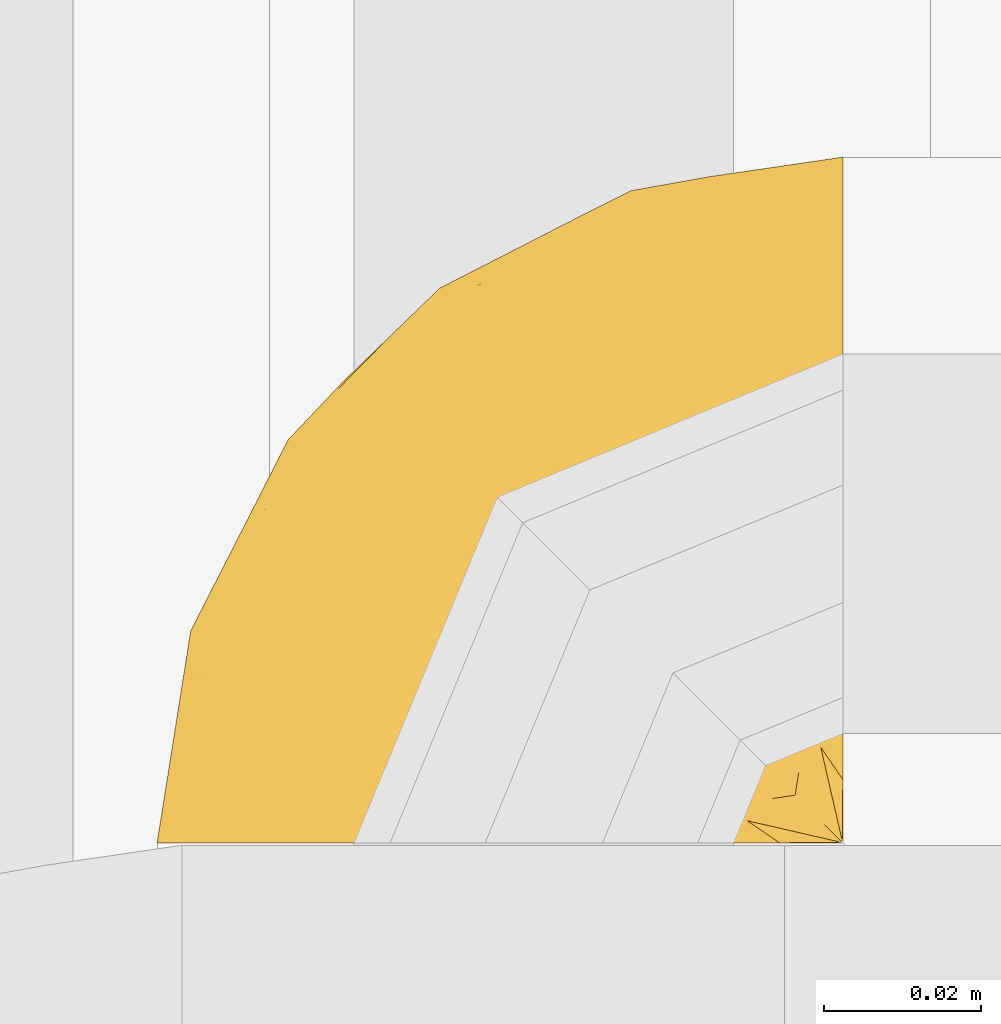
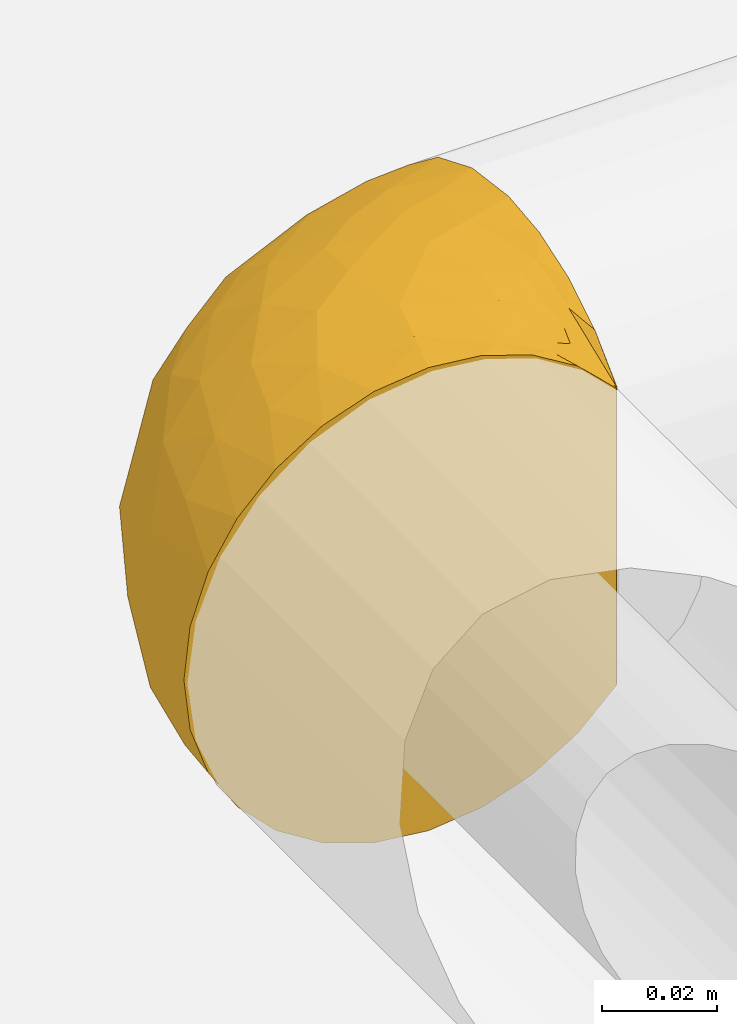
# One storey, part 34 of 94: 1 covering.
"""IFC2X3 building model written with IfcOpenShell, lengths in millimetres."""

from ifc_helpers import new_model, entity, si_unit, converted_unit, derived_unit, direction, frame, origin, place, context, subcontext, project, spatial, faceted_brep, material, element, save


model = new_model("IFC2X3")

# Units and contexts
model_context = context("Model", 3, precision=0.01, world=origin(), true_north=direction((6.123031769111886e-17, 1.0)))
body_context = subcontext(model_context, "Body", "Model", "MODEL_VIEW")
ifc_project = project(units=[si_unit("LENGTHUNIT", "METRE", prefix="MILLI"), si_unit("AREAUNIT", "SQUARE_METRE"), si_unit("VOLUMEUNIT", "CUBIC_METRE"), converted_unit("PLANEANGLEUNIT", "DEGREE", entity("IfcRatioMeasure", 0.017453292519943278), si_unit("PLANEANGLEUNIT", "RADIAN"), dimensions=[0, 0, 0, 0, 0, 0, 0]), si_unit("MASSUNIT", "GRAM", prefix="KILO"), derived_unit("MASSDENSITYUNIT", [(si_unit("MASSUNIT", "GRAM", prefix="KILO"), 1), (si_unit("LENGTHUNIT", "METRE"), -3)]), derived_unit("IONCONCENTRATIONUNIT", [(si_unit("MASSUNIT", "GRAM", prefix="KILO"), 1), (si_unit("LENGTHUNIT", "METRE"), -3)]), derived_unit("MOMENTOFINERTIAUNIT", [(si_unit("LENGTHUNIT", "METRE"), 4)]), si_unit("TIMEUNIT", "SECOND"), si_unit("FREQUENCYUNIT", "HERTZ"), si_unit("THERMODYNAMICTEMPERATUREUNIT", "DEGREE_CELSIUS"), derived_unit("THERMALTRANSMITTANCEUNIT", [(si_unit("MASSUNIT", "GRAM", prefix="KILO"), 1), (si_unit("THERMODYNAMICTEMPERATUREUNIT", "KELVIN"), -1), (si_unit("TIMEUNIT", "SECOND"), -3)]), derived_unit("THERMALCONDUCTANCEUNIT", [(si_unit("MASSUNIT", "GRAM", prefix="KILO"), 1), (si_unit("THERMODYNAMICTEMPERATUREUNIT", "KELVIN"), -1), (si_unit("TIMEUNIT", "SECOND"), -3), (si_unit("LENGTHUNIT", "METRE"), 1)]), derived_unit("VOLUMETRICFLOWRATEUNIT", [(si_unit("LENGTHUNIT", "METRE"), 3), (si_unit("TIMEUNIT", "SECOND"), -1)]), derived_unit("MASSFLOWRATEUNIT", [(si_unit("MASSUNIT", "GRAM", prefix="KILO"), 1), (si_unit("TIMEUNIT", "SECOND"), -1)]), derived_unit("ROTATIONALFREQUENCYUNIT", [(si_unit("TIMEUNIT", "SECOND"), -1)]), si_unit("ELECTRICCURRENTUNIT", "AMPERE"), si_unit("ELECTRICVOLTAGEUNIT", "VOLT"), si_unit("POWERUNIT", "WATT"), si_unit("FORCEUNIT", "NEWTON", prefix="KILO"), si_unit("ILLUMINANCEUNIT", "LUX"), si_unit("LUMINOUSFLUXUNIT", "LUMEN"), si_unit("LUMINOUSINTENSITYUNIT", "CANDELA"), derived_unit("USERDEFINED", [(si_unit("MASSUNIT", "GRAM", prefix="KILO"), -1), (si_unit("LENGTHUNIT", "METRE"), -2), (si_unit("TIMEUNIT", "SECOND"), 3), (si_unit("LUMINOUSFLUXUNIT", "LUMEN"), 1)]), derived_unit("USERDEFINED", [(si_unit("MASSUNIT", "GRAM", prefix="KILO"), 1), (si_unit("TIMEUNIT", "SECOND"), -3), (si_unit("LENGTHUNIT", "METRE"), 3), (si_unit("ELECTRICCURRENTUNIT", "AMPERE"), -2)]), derived_unit("SOUNDPOWERUNIT", [(si_unit("MASSUNIT", "GRAM", prefix="KILO"), 1), (si_unit("TIMEUNIT", "SECOND"), -3), (si_unit("LENGTHUNIT", "METRE"), 2)]), derived_unit("SOUNDPRESSUREUNIT", [(si_unit("MASSUNIT", "GRAM", prefix="KILO"), 1), (si_unit("LENGTHUNIT", "METRE"), -1), (si_unit("TIMEUNIT", "SECOND"), -2)]), derived_unit("LINEARVELOCITYUNIT", [(si_unit("LENGTHUNIT", "METRE"), 1), (si_unit("TIMEUNIT", "SECOND"), -1)]), si_unit("PRESSUREUNIT", "PASCAL"), derived_unit("USERDEFINED", [(si_unit("MASSUNIT", "GRAM", prefix="KILO"), 1), (si_unit("LENGTHUNIT", "METRE"), -2), (si_unit("TIMEUNIT", "SECOND"), -2)]), derived_unit("LINEARFORCEUNIT", [(si_unit("MASSUNIT", "GRAM", prefix="KILO"), 1), (si_unit("TIMEUNIT", "SECOND"), -2)]), derived_unit("PLANARFORCEUNIT", [(si_unit("MASSUNIT", "GRAM", prefix="KILO"), 1), (si_unit("LENGTHUNIT", "METRE"), -1), (si_unit("TIMEUNIT", "SECOND"), -2)]), derived_unit("SPECIFICHEATCAPACITYUNIT", [(si_unit("THERMODYNAMICTEMPERATUREUNIT", "KELVIN"), -1), (si_unit("LENGTHUNIT", "METRE"), 2), (si_unit("TIMEUNIT", "SECOND"), -2)]), derived_unit("HEATINGVALUEUNIT", [(si_unit("LENGTHUNIT", "METRE"), 2), (si_unit("TIMEUNIT", "SECOND"), -2)]), derived_unit("VAPORPERMEABILITYUNIT", [(si_unit("LENGTHUNIT", "METRE"), -1), (si_unit("TIMEUNIT", "SECOND"), 1)]), derived_unit("DYNAMICVISCOSITYUNIT", [(si_unit("MASSUNIT", "GRAM", prefix="KILO"), 1), (si_unit("TIMEUNIT", "SECOND"), -1), (si_unit("LENGTHUNIT", "METRE"), -1)]), derived_unit("THERMALEXPANSIONCOEFFICIENTUNIT", [(si_unit("THERMODYNAMICTEMPERATUREUNIT", "KELVIN"), -1)]), derived_unit("MODULUSOFELASTICITYUNIT", [(si_unit("MASSUNIT", "GRAM", prefix="KILO"), 1), (si_unit("LENGTHUNIT", "METRE"), -1), (si_unit("TIMEUNIT", "SECOND"), -2)]), derived_unit("ISOTHERMALMOISTURECAPACITYUNIT", [(si_unit("LENGTHUNIT", "METRE"), 3), (si_unit("MASSUNIT", "GRAM", prefix="KILO"), -1)]), derived_unit("MOISTUREDIFFUSIVITYUNIT", [(si_unit("TIMEUNIT", "SECOND"), -1), (si_unit("LENGTHUNIT", "METRE"), 2)])], contexts=[model_context])

# Site, building, storey
site_placement = place(None, origin())
site = spatial("IfcSite", under=ifc_project, at=site_placement, Name="Default", CompositionType="ELEMENT")
building_placement = place(site_placement, origin())
building = spatial("IfcBuilding", under=site, at=building_placement, CompositionType="ELEMENT")
storey_placement = place(building_placement, origin())
storey = spatial("IfcBuildingStorey", under=building, at=storey_placement, Name="Niveau 0", CompositionType="ELEMENT", Elevation=0.0)

# Covering
ifc_material = material(Name="Isolation - Laine minérale")
covering_placement = place(storey_placement, frame((-6977.485954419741, 9323.337986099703, 194.74527223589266)))
element("IfcCovering", 1, at=covering_placement, inside=storey, material=ifc_material, Name="Isolation des canalisations:Laine minérale", ObjectType="Isolation des canalisations:Laine minérale", PredefinedType="INSULATION", context=body_context, shape_type="Brep", body=[
    faceted_brep([(29.41213456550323, 1.5952722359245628, -6.466386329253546), (20.093252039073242, 1.5952722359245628, -12.324234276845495), (12.31254833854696, 1.5952722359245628, -20.107905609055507), (6.459227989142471, 1.5952722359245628, -29.426998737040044), (2.826140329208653, 1.5952722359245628, -39.81461364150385), (1.5952722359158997, 1.5952722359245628, -50.745272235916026), (2.828812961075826, 1.5952722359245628, -61.68764083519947), (6.466386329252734, 1.5952722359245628, -72.07840990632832), (12.324234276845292, 1.5952722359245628, -81.3972924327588), (20.107905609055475, 1.5952722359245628, -89.17799613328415), (29.426998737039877, 1.5952722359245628, -95.03131648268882), (39.814613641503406, 1.5952722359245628, -98.6644041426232), (50.74527223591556, 1.5952722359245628, -99.89527223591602), (61.40435822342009, 1.5952722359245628, -98.7255430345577), (71.55257335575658, 1.5952722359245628, -95.27367575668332), (80.70896636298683, 1.5952722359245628, -89.70550239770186), (88.43165280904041, 1.5952722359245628, -82.29617110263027), (88.43165280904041, 1.5952722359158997, -79.85190220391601), (88.43165280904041, 1.5952722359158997, -78.07484973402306), (88.43165280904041, 1.5952722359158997, -76.29779726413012), (88.43165280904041, 1.5952722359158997, -74.79820380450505), (88.43165280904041, 1.5952722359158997, -73.29861034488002), (88.43165280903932, 1.5952722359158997, -70.29942342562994), (88.43165280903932, 1.5952722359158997, -67.30023650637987), (88.43165280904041, 1.5952722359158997, -64.3010495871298), (88.43165280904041, 1.5952722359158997, -61.301862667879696), (88.43165280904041, 1.5952722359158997, -59.802269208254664), (88.43165280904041, 1.5952722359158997, -58.30267574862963), (88.43165280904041, 1.5952722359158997, -55.85840684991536), (88.43165280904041, 1.5952722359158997, -53.41413795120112), (88.43165280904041, 1.5952722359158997, -50.96986905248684), (88.43165280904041, 1.5952722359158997, -48.5256001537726), (88.43165280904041, 1.5952722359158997, -46.08133125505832), (88.43165280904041, 1.5952722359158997, -43.63706235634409), (88.4316528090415, 1.5952722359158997, -41.19279345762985), (88.43165280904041, 1.5952722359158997, -38.74852455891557), (88.43165280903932, 1.5952722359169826, -36.30425566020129), (88.43165280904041, 1.5952722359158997, -33.859986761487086), (88.43165280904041, 1.5952722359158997, -31.415717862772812), (88.4316528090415, 1.5952722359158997, -28.97144896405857), (88.43165280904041, 1.5952722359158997, -26.527180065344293), (88.43165280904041, 1.5952722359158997, -24.082911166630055), (88.4316528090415, 1.5952722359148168, -21.638642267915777), (88.43165280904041, 1.5952722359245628, -19.194373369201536), (80.69235262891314, 1.5952722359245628, -11.772270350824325), (71.53113811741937, 1.5952722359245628, -6.206858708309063), (61.38390047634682, 1.5952722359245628, -2.7604612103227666), (50.74527223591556, 1.5952722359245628, -1.5952722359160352), (39.80290363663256, 1.5952722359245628, -2.828812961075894), (88.74527223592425, 9.641963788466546, -89.71348765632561), (88.74527223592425, 18.798688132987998, -95.27868204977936), (88.74527223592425, 28.94385431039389, -98.72724589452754), (88.74527223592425, 39.59527223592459, -99.89527223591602), (88.74527223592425, 52.31622830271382, -98.22052659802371), (88.74527223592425, 64.17027223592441, -93.31042083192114), (88.74527223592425, 74.34957053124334, -85.4995705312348), (88.74527223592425, 82.16042083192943, -75.320272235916), (88.74527223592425, 87.07052659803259, -63.466228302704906), (88.74527223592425, 88.74527223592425, -50.745272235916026), (88.74527223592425, 87.07052659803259, -38.02431616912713), (88.74527223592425, 82.16042083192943, -26.17027223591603), (88.74527223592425, 74.34957053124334, -15.990973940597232), (88.74527223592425, 64.17027223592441, -8.180123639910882), (88.74527223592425, 52.31622830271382, -3.270017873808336), (88.74527223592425, 39.59527223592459, -1.5952722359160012), (88.74527223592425, 28.94385431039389, -2.7632985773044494), (88.74527223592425, 18.798688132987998, -6.21186242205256), (88.74527223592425, 9.641963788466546, -11.777056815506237), (88.74527223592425, 1.908891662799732, -19.194373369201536), (88.74527223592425, 1.908891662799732, -21.638642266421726), (88.74527223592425, 1.908891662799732, -23.13823572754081), (88.74527223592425, 1.908891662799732, -25.110166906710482), (88.74527223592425, 1.908891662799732, -27.082098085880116), (88.74527223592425, 1.908891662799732, -29.054029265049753), (88.74527223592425, 1.908891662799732, -31.025960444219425), (88.74527223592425, 1.908891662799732, -32.99789162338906), (88.74527223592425, 1.908891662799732, -34.96982280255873), (88.74527223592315, 1.908891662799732, -36.94175398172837), (88.74527223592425, 1.908891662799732, -38.913685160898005), (88.74527223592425, 1.908891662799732, -40.88561634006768), (88.74527223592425, 1.908891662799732, -42.857547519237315), (88.74527223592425, 1.908891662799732, -44.82947869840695), (88.74527223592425, 1.908891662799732, -46.8014098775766), (88.74527223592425, 1.908891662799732, -48.773341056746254), (88.74527223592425, 1.908891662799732, -50.74527223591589), (88.74527223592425, 1.908891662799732, -52.717203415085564), (88.74527223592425, 1.908891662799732, -54.6891345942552), (88.74527223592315, 1.908891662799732, -56.66106577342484), (88.74527223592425, 1.908891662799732, -58.63299695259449), (88.74527223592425, 1.908891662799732, -60.60492813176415), (88.74527223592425, 1.908891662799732, -62.576859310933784), (88.74527223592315, 1.908891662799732, -64.54879049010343), (88.74527223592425, 1.908891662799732, -66.52072166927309), (88.74527223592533, 1.908891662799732, -69.51990859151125), (88.74527223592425, 1.908891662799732, -72.51909551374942), (88.74527223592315, 1.908891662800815, -74.96336441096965), (88.74527223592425, 1.908891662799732, -77.40763330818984), (88.74527223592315, 1.908891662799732, -79.85190220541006), (88.74527223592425, 1.908891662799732, -82.29617110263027), (88.53090125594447, 1.8241875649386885, -47.73720476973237), (88.52210831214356, 1.815624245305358, -49.65777912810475), (88.521221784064, 1.8147227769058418, -40.01764283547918), (88.5277799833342, 1.8212241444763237, -37.92771907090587), (88.54092532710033, 1.8331787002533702, -53.48951745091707), (88.53506454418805, 1.828016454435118, -24.24055049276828), (88.49130573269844, 1.7792781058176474, -20.79140612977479), (88.51810292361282, 1.8114926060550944, -59.05247302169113), (88.52350981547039, 1.8170346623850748, -78.62976787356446), (88.52548149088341, 1.81898896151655, -76.79032803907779), (88.51653277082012, 1.8098308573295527, -30.12045491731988), (88.52674320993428, 1.820221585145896, -28.08670561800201), (88.5046900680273, 1.796462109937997, -57.08054182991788), (88.52964682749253, 1.8230063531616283, -63.562825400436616), (88.53317608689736, 1.8262968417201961, -61.67745907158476), (88.51585328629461, 1.8091041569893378, -65.53475654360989), (88.52914218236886, 1.8225274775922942, -51.73123795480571), (88.52350981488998, 1.817034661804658, -22.388438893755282), (88.52591800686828, 1.8194169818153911, -80.4629694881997), (88.5366490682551, 1.8294378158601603, -45.815443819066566), (88.5374788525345, 1.8301744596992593, -33.98385679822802), (88.53273195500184, 1.82588831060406, -35.875997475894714), (88.53426299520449, 1.8272900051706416, -67.38596354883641), (88.53370000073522, 1.8267767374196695, -43.93836928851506), (88.53493173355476, 1.8278964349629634, -26.09613228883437), (88.5235098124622, 1.8170346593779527, -19.194373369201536), (88.49487979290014, 1.747915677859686, -19.19437336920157), (88.46624977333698, 1.678796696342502, -19.19437336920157), (88.5235098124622, 1.8170346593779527, -82.29617110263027), (88.59262879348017, 1.8456646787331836, -82.29617110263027), (88.66174777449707, 1.8742946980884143, -82.29617110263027), (88.51000647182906, 1.802653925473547, -69.27838714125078), (88.5304248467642, 1.8237404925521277, -32.05495223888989), (88.52246762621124, 1.8159875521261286, -55.242256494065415), (88.52470424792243, 1.8182226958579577, -41.99993111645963), (88.50579329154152, 1.7977740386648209, -72.0712924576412), (88.52744143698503, 1.8208977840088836, -74.04840730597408), (88.6617477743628, 1.8742946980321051, -19.19437336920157), (88.59262879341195, 1.845664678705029, -19.19437336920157), (88.46624977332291, 1.6787966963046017, -82.29617110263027), (88.49487979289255, 1.7479156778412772, -82.29617110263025), (85.22080157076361, 23.495219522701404, -97.28026065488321), (85.93611072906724, 13.747756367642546, -92.74636463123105), (81.07807843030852, 22.409779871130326, -97.28026068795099), (83.13289242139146, 10.562522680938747, -91.53496062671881), (79.24527223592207, 37.049754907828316, -99.89527223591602), (81.28890223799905, 37.59734391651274, -99.89527223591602), (55.83630689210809, 20.595272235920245, -99.89527223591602), (66.39553001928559, 16.020149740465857, -98.55504664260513), (67.94040403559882, 9.261677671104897, -97.27709237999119), (69.7452722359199, 34.50423757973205, -99.89527223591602), (80.67378389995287, 9.66789749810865, -92.0852386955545), (79.7889209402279, 7.20291242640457, -91.52705697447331), (74.32109358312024, 23.94474674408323, -98.55490264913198), (66.85470593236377, 5.119390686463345, -97.27709230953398), (76.60336361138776, 4.402893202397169, -92.73988957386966), (79.6491193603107, 17.541506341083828, -95.79991667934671), (52.74320051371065, 9.051642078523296, -99.89527223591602), (53.290789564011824, 11.095272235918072, -99.89527223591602), (73.61168493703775, 16.72885944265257, -97.007924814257), (62.790789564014, 27.549754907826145, -99.89527223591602), (73.87988529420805, 12.071559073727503, -95.72448717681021), (75.32913676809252, 47.62395095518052, -98.87881941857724), (65.91074185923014, 44.00144112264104, -98.833012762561), (53.84761415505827, 58.899698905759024, -90.35896612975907), (59.13651173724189, 72.66771487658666, -80.66589656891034), (71.16612245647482, 67.20155656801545, -89.73858973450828), (67.00545271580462, 54.07984229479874, -96.15395204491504), (78.88051287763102, 57.54110754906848, -96.15395161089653), (37.51978749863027, 72.10110329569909, -50.745272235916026), (61.81444117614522, 84.47984763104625, -50.745272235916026), (53.87520138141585, 80.24801351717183, -61.150804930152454), (25.78494399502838, 13.851436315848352, -92.36630119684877), (36.244182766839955, 15.165285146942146, -97.1394991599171), (29.562882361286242, 60.7776584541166, -68.84359020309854), (30.770681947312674, 55.38583609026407, -77.72163513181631), (15.292222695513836, 43.89737524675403, -65.87522637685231), (71.31385843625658, 86.12648113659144, -59.79441061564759), (47.24102741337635, 73.23168363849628, -70.98072673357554), (43.50389303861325, 64.74738573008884, -79.74211405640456), (75.28985257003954, 77.40373146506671, -80.66589650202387), (67.10273039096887, 82.14716981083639, -69.5541617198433), (37.099200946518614, 52.829115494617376, -85.50619835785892), (44.515176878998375, 48.878965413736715, -91.98084112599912), (33.70477633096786, 40.607220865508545, -90.08477530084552), (44.051694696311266, 28.76995319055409, -97.76701228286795), (30.044081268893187, 27.448445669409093, -92.36630165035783), (18.312338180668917, 19.800365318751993, -85.50619671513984), (5.860696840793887, 28.52610329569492, -50.745272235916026), (7.041406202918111, 22.71562192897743, -66.98519337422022), (25.61446965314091, 42.31748570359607, -82.95460966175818), (15.886915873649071, 33.68382770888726, -76.90235033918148), (10.600409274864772, 16.806973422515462, -76.90235057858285), (38.50378416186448, 71.07858054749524, -62.41468564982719), (25.345180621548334, 60.332491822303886, -59.14435954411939), (53.16350413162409, 33.37332146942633, -98.92729244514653), (18.23944117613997, 52.82075697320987, -50.745272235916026), (52.69469876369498, 43.46542968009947, -96.76809515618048), (58.175892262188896, 79.2001746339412, -31.93638344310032), (71.70091272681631, 86.24488809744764, -41.90543662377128), (54.574333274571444, 80.83807017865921, -41.625118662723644), (42.49805076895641, 72.52816019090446, -35.35264744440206), (75.0623548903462, 83.87397883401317, -31.936382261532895), (24.525141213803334, 35.798660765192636, -15.99722250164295), (25.78634265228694, 48.02046276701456, -22.50195470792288), (15.878231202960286, 33.68736739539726, -24.60311366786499), (37.089792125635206, 52.83844921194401, -15.997599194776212), (35.71336208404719, 59.75598123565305, -23.203879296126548), (36.23150879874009, 15.17001623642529, -4.3557532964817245), (70.53804152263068, 45.55141709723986, -2.537508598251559), (69.7452722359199, 34.50423757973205, -1.5952722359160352), (79.24527223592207, 37.049754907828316, -1.5952722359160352), (7.036299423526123, 22.71467774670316, -34.518805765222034), (69.24086116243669, 76.07714087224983, -20.824647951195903), (30.030512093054, 27.45465165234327, -9.133617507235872), (25.770245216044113, 13.854008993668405, -9.133617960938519), (76.87540408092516, 68.47065883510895, -11.751955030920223), (74.00473445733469, 56.45843349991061, -5.33659268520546), (48.41047025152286, 68.08854506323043, -21.865705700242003), (62.62553049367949, 64.29272071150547, -11.751954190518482), (31.220776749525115, 66.01125638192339, -41.982385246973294), (29.56034539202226, 60.78019542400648, -32.656015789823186), (79.82666983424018, 48.01911236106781, -2.477909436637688), (10.591274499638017, 16.809109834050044, -24.603113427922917), (15.287247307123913, 43.900853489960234, -35.63402191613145), (18.299506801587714, 19.80368192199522, -15.99760083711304), (44.049870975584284, 28.786726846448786, -3.7266594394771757), (55.83630689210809, 20.595272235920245, -1.5952722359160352), (54.23536248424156, 35.485066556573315, -2.70123495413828), (62.790789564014, 27.549754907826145, -1.5952722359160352), (52.74320051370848, 9.051642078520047, -1.5952722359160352), (53.290789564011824, 11.095272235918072, -1.5952722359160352), (48.41211537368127, 53.16291239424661, -9.986684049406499), (64.14304703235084, 52.05308452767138, -5.063713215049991), (40.10640265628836, 41.401037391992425, -8.340625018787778), (62.890734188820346, 40.721221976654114, -2.4071726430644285), (47.67277833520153, 60.91677547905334, -15.399468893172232), (55.38955823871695, 45.94061161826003, -4.81237541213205), (81.0780784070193, 22.409778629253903, -4.210284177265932), (78.26566497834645, 16.46425424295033, -5.7639204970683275), (74.32072912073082, 23.943292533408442, -2.935886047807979), (85.22080145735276, 23.495218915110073, -4.2102840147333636), (85.93611080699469, 13.74775580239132, -8.744180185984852), (83.13257230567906, 10.564867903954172, -9.9541333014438), (82.68198005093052, 7.656624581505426, -11.37778819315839), (73.61706381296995, 16.72348133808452, -4.485349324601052), (79.75777141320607, 7.2165179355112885, -9.940890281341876), (67.91845358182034, 9.263185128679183, -4.20627402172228), (66.83334757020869, 5.119593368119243, -4.206273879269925), (76.58449008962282, 4.405878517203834, -8.73906950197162), (66.3977076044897, 16.01862728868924, -2.9361309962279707), (72.78382599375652, 10.692146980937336, -5.684713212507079)], [[[0, 1, 2, 3, 4, 5, 6, 7, 8, 9, 10, 11, 12, 13, 14, 15, 16, 17, 18, 19, 20, 21, 22, 23, 24, 25, 26, 27, 28, 29, 30, 31, 32, 33, 34, 35, 36, 37, 38, 39, 40, 41, 42, 43, 44, 45, 46, 47, 48]], [[49, 50, 51, 52, 53, 54, 55, 56, 57, 58, 59, 60, 61, 62, 63, 64, 65, 66, 67, 68, 69, 70, 71, 72, 73, 74, 75, 76, 77, 78, 79, 80, 81, 82, 83, 84, 85, 86, 87, 88, 89, 90, 91, 92, 93, 94, 95, 96, 97, 98]], [[99, 100, 83]], [[101, 102, 35]], [[85, 103, 86]], [[71, 70, 104]], [[105, 69, 68]], [[27, 26, 106]], [[18, 107, 108]], [[109, 73, 110]], [[28, 27, 111]], [[25, 112, 113]], [[108, 96, 95]], [[114, 92, 91]], [[103, 85, 115]], [[96, 107, 97]], [[116, 70, 69]], [[107, 17, 117]], [[78, 102, 101]], [[99, 118, 32]], [[76, 119, 120]], [[121, 92, 114]], [[112, 90, 113]], [[88, 111, 106]], [[40, 39, 110]], [[107, 96, 108]], [[32, 118, 122]], [[91, 90, 112]], [[37, 120, 119]], [[84, 115, 85]], [[69, 105, 116]], [[71, 123, 72]], [[105, 124, 125, 126, 43]], [[117, 17, 16]], [[41, 116, 42]], [[117, 127, 128, 129, 98]], [[110, 123, 40]], [[42, 116, 105]], [[121, 23, 130]], [[24, 114, 112]], [[114, 24, 23]], [[104, 123, 71]], [[91, 112, 114]], [[104, 116, 41]], [[24, 112, 25]], [[110, 72, 123]], [[36, 120, 37]], [[40, 123, 41]], [[74, 73, 109]], [[131, 75, 74]], [[119, 131, 37]], [[109, 110, 39]], [[109, 39, 38]], [[73, 72, 110]], [[123, 104, 41]], [[116, 104, 70]], [[26, 25, 113]], [[113, 89, 106]], [[87, 86, 132]], [[113, 106, 26]], [[76, 75, 119]], [[132, 111, 87]], [[106, 111, 27]], [[132, 28, 111]], [[87, 111, 88]], [[88, 106, 89]], [[113, 90, 89]], [[131, 119, 75]], [[38, 37, 131]], [[120, 36, 102]], [[131, 109, 38]], [[109, 131, 74]], [[78, 77, 102]], [[77, 120, 102]], [[77, 76, 120]], [[122, 80, 133]], [[36, 35, 102]], [[33, 122, 133]], [[79, 78, 101]], [[34, 101, 35]], [[132, 29, 28]], [[80, 79, 133]], [[29, 103, 115]], [[30, 29, 115]], [[86, 103, 132]], [[100, 115, 84]], [[31, 30, 100]], [[115, 100, 30]], [[32, 31, 99]], [[118, 81, 122]], [[100, 84, 83]], [[99, 82, 118]], [[81, 118, 82]], [[33, 32, 122]], [[82, 99, 83]], [[100, 99, 31]], [[34, 33, 133]], [[122, 81, 80]], [[133, 101, 34]], [[101, 133, 79]], [[134, 94, 93]], [[23, 121, 114]], [[132, 103, 29]], [[121, 93, 92]], [[93, 121, 130]], [[97, 107, 117]], [[108, 20, 19, 18]], [[21, 135, 134]], [[20, 135, 21]], [[134, 135, 94]], [[108, 95, 135]], [[108, 135, 20]], [[135, 95, 94]], [[134, 22, 21]], [[130, 22, 134]], [[42, 105, 43]], [[105, 68, 136, 137, 124]], [[97, 117, 98]], [[117, 16, 138, 139, 127]], [[18, 17, 107]], [[93, 130, 134]], [[22, 130, 23]], [[140, 141, 142]], [[143, 129, 128, 127]], [[51, 144, 145, 52]], [[146, 147, 148]], [[142, 149, 144]], [[150, 127, 151]], [[50, 140, 51]], [[142, 152, 149]], [[51, 140, 144]], [[129, 143, 141]], [[14, 13, 153]], [[148, 151, 154]], [[155, 141, 143]], [[151, 138, 154]], [[14, 153, 154]], [[16, 15, 138]], [[13, 12, 156, 157]], [[152, 155, 158]], [[159, 158, 147]], [[157, 148, 153]], [[14, 154, 15]], [[49, 98, 129]], [[49, 129, 141]], [[141, 50, 49]], [[160, 148, 147]], [[146, 148, 157]], [[138, 15, 154]], [[150, 158, 155]], [[151, 127, 139, 138]], [[141, 140, 50]], [[144, 140, 142]], [[157, 153, 13]], [[154, 153, 148]], [[149, 152, 159]], [[160, 147, 158]], [[147, 146, 159]], [[155, 152, 142]], [[159, 152, 158]], [[127, 150, 143]], [[160, 150, 151]], [[150, 160, 158]], [[148, 160, 151]], [[141, 155, 142]], [[155, 143, 150]], [[156, 12, 11]], [[161, 149, 162]], [[163, 164, 165]], [[166, 167, 161]], [[168, 169, 170]], [[54, 165, 55]], [[171, 172, 10]], [[173, 174, 175]], [[57, 176, 58]], [[173, 177, 178]], [[179, 56, 55]], [[54, 167, 165]], [[170, 180, 177]], [[56, 179, 180]], [[167, 54, 53]], [[181, 182, 183]], [[184, 146, 172]], [[172, 185, 184]], [[186, 185, 171]], [[186, 9, 8]], [[172, 146, 157, 156]], [[172, 11, 10]], [[173, 178, 174]], [[6, 187, 188]], [[189, 186, 190]], [[191, 186, 8]], [[175, 190, 188]], [[168, 192, 193]], [[189, 190, 174]], [[56, 180, 57]], [[8, 7, 191]], [[188, 7, 6]], [[6, 5, 187]], [[190, 191, 188]], [[159, 194, 162]], [[175, 187, 195]], [[177, 180, 164]], [[10, 9, 171]], [[176, 180, 170]], [[156, 11, 172]], [[163, 165, 166]], [[179, 165, 164]], [[53, 52, 145]], [[185, 189, 183]], [[184, 196, 194]], [[188, 191, 7]], [[186, 191, 190]], [[186, 171, 9]], [[172, 171, 185]], [[187, 175, 188]], [[193, 175, 195]], [[196, 163, 166]], [[163, 181, 178]], [[162, 166, 161]], [[184, 185, 183]], [[178, 177, 164]], [[177, 192, 170]], [[177, 173, 192]], [[176, 170, 169]], [[58, 176, 169]], [[57, 180, 176]], [[193, 192, 173]], [[168, 170, 192]], [[175, 193, 173]], [[168, 193, 195]], [[163, 178, 164]], [[184, 194, 146]], [[178, 181, 174]], [[189, 174, 181]], [[175, 174, 190]], [[183, 189, 181]], [[186, 189, 185]], [[182, 181, 163]], [[183, 182, 184]], [[163, 196, 182]], [[184, 182, 196]], [[165, 179, 55]], [[180, 179, 164]], [[161, 53, 145]], [[165, 167, 166]], [[53, 161, 167]], [[161, 145, 144, 149]], [[159, 162, 149]], [[196, 166, 162]], [[162, 194, 196]], [[146, 194, 159]], [[197, 198, 199]], [[58, 169, 198]], [[197, 199, 200]], [[198, 197, 201]], [[202, 203, 204]], [[60, 59, 201]], [[205, 206, 203]], [[0, 48, 207]], [[208, 209, 210]], [[187, 4, 211]], [[201, 212, 60]], [[213, 214, 207]], [[61, 215, 62]], [[62, 215, 216]], [[3, 211, 4]], [[217, 218, 212]], [[219, 220, 200]], [[216, 208, 221]], [[3, 2, 222]], [[62, 216, 63]], [[61, 60, 212]], [[211, 3, 222]], [[5, 4, 187]], [[217, 197, 200]], [[203, 223, 204]], [[2, 1, 224]], [[225, 213, 207]], [[204, 222, 224]], [[1, 0, 214]], [[204, 224, 202]], [[207, 226, 225]], [[227, 226, 228]], [[223, 211, 204]], [[214, 224, 1]], [[202, 224, 213]], [[48, 47, 229]], [[207, 229, 230, 226]], [[211, 223, 187]], [[218, 231, 232]], [[48, 229, 207]], [[205, 233, 231]], [[233, 213, 225]], [[217, 212, 197]], [[215, 212, 218]], [[228, 234, 227]], [[233, 205, 202]], [[208, 234, 209]], [[63, 221, 64]], [[235, 205, 231]], [[207, 214, 0]], [[224, 214, 213]], [[224, 222, 2]], [[211, 222, 204]], [[219, 223, 220]], [[187, 223, 195]], [[227, 233, 225]], [[234, 228, 209]], [[231, 233, 236]], [[221, 208, 210]], [[232, 208, 216]], [[64, 221, 210]], [[216, 221, 63]], [[233, 202, 213]], [[203, 202, 205]], [[205, 235, 206]], [[223, 203, 220]], [[200, 206, 217]], [[220, 203, 206]], [[232, 231, 236]], [[235, 218, 217]], [[212, 215, 61]], [[216, 215, 218]], [[218, 232, 216]], [[234, 232, 236]], [[232, 234, 208]], [[234, 236, 227]], [[233, 227, 236]], [[226, 227, 225]], [[198, 201, 59]], [[212, 201, 197]], [[58, 198, 59]], [[198, 169, 199]], [[169, 168, 199]], [[219, 200, 199]], [[219, 199, 168]], [[200, 220, 206]], [[168, 195, 219]], [[223, 219, 195]], [[218, 235, 231]], [[206, 235, 217]], [[65, 64, 210]], [[209, 237, 210]], [[238, 237, 239]], [[66, 240, 241]], [[242, 136, 241]], [[243, 137, 242]], [[243, 244, 245]], [[65, 240, 66]], [[136, 68, 67]], [[136, 67, 241]], [[246, 226, 230]], [[66, 241, 67]], [[210, 237, 240]], [[45, 247, 46]], [[209, 239, 237]], [[246, 247, 248]], [[46, 247, 230]], [[249, 250, 244]], [[239, 228, 244]], [[226, 246, 249]], [[250, 248, 245]], [[44, 43, 126]], [[237, 242, 241]], [[248, 45, 44]], [[44, 126, 248]], [[46, 230, 229, 47]], [[245, 126, 125]], [[126, 245, 248]], [[243, 124, 137]], [[210, 240, 65]], [[241, 240, 237]], [[248, 247, 45]], [[230, 247, 246]], [[226, 249, 228]], [[238, 239, 244]], [[239, 209, 228]], [[250, 249, 246]], [[228, 249, 244]], [[243, 242, 238]], [[136, 242, 137]], [[124, 243, 125]], [[125, 243, 245]], [[243, 238, 244]], [[237, 238, 242]], [[248, 250, 246]], [[244, 250, 245]]]),
])

save(model, "model.ifc")
